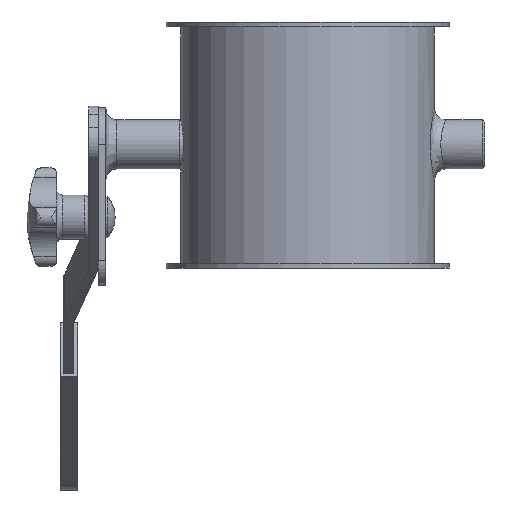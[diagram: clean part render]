
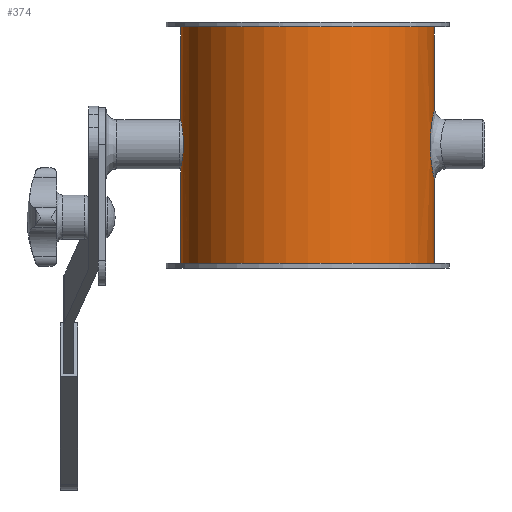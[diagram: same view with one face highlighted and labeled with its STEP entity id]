
A CAD part, front view. The second image highlights one B-rep face of the part: STEP entity #374.
In plain terms, the highlighted cylindrical face has radius 51.5 mm (diameter 103 mm), a full revolution.
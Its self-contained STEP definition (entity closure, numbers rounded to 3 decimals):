
#266=CARTESIAN_POINT('',(49.744,13.335,50.293));
#267=VERTEX_POINT('',#266);
#277=CARTESIAN_POINT('',(49.743,13.336,50.293));
#278=CARTESIAN_POINT('',(49.743,13.336,50.293));
#279=CARTESIAN_POINT('',(49.743,13.336,50.294));
#280=CARTESIAN_POINT('',(49.743,13.336,50.294));
#281=CARTESIAN_POINT('',(49.743,13.336,52.461));
#282=CARTESIAN_POINT('',(50.001,12.421,56.796));
#283=CARTESIAN_POINT('',(50.851,8.618,61.994));
#284=CARTESIAN_POINT('',(51.526,3.114,64.904));
#285=CARTESIAN_POINT('',(51.526,-3.077,64.919));
#286=CARTESIAN_POINT('',(50.858,-8.59,62.008));
#287=CARTESIAN_POINT('',(49.902,-12.841,56.264));
#288=CARTESIAN_POINT('',(49.614,-13.793,49.507));
#289=CARTESIAN_POINT('',(50.158,-11.792,42.487));
#290=CARTESIAN_POINT('',(50.965,-8.044,38.1));
#291=CARTESIAN_POINT('',(51.527,-2.405,35.676));
#292=CARTESIAN_POINT('',(51.526,3.082,35.672));
#293=CARTESIAN_POINT('',(50.853,8.603,38.583));
#294=CARTESIAN_POINT('',(50.004,12.412,43.757));
#295=CARTESIAN_POINT('',(49.743,13.336,48.127));
#296=CARTESIAN_POINT('',(49.743,13.336,50.293));
#297=B_SPLINE_CURVE_WITH_KNOTS('',3,(#277,#278,#279,#280,#281,#282,#283,#284,#285,#286,#287,#288,#289,#290,#291,#292,#293,#294,#295,#296),.UNSPECIFIED.,.T.,.U.,(4,3,1,1,1,1,1,1,1,1,1,1,1,1,1,4),(-6.044,-6.044,-5.612,-5.18,-4.748,-4.317,-3.885,-3.453,-2.878,-2.59,-2.015,-1.727,-1.295,-0.863,-0.432,0.),.UNSPECIFIED.);
#298=EDGE_CURVE('',#267,#267,#297,.T.);
#303=CARTESIAN_POINT('',(0.0,0.0,0.0));
#304=DIRECTION('',(0.0,0.0,1.0));
#305=DIRECTION('',(-1.0,0.0,0.0));
#306=AXIS2_PLACEMENT_3D('',#303,#304,#305);
#307=CYLINDRICAL_SURFACE('',#306,51.5);
#308=CARTESIAN_POINT('',(51.5,0.,98.0));
#309=VERTEX_POINT('',#308);
#310=CARTESIAN_POINT('',(0.0,0.0,98.0));
#311=DIRECTION('',(0.0,0.0,-1.0));
#312=DIRECTION('',(-1.0,0.0,0.0));
#313=AXIS2_PLACEMENT_3D('',#310,#311,#312);
#314=CIRCLE('',#313,51.5);
#315=EDGE_CURVE('',#309,#309,#314,.T.);
#316=ORIENTED_EDGE('',*,*,#315,.T.);
#317=EDGE_LOOP('',(#316));
#318=FACE_OUTER_BOUND('',#317,.T.);
#319=CARTESIAN_POINT('',(-51.5,0.,2.0));
#320=VERTEX_POINT('',#319);
#321=CARTESIAN_POINT('',(0.0,0.0,2.0));
#322=DIRECTION('',(0.0,0.0,1.0));
#323=DIRECTION('',(-1.0,0.0,0.0));
#324=AXIS2_PLACEMENT_3D('',#321,#322,#323);
#325=CIRCLE('',#324,51.5);
#326=EDGE_CURVE('',#320,#320,#325,.T.);
#327=ORIENTED_EDGE('',*,*,#326,.T.);
#328=EDGE_LOOP('',(#327));
#329=FACE_BOUND('',#328,.T.);
#330=CARTESIAN_POINT('',(-50.52,10.0,50.293));
#331=VERTEX_POINT('',#330);
#332=CARTESIAN_POINT('',(-50.52,10.0,50.293));
#333=CARTESIAN_POINT('',(-50.52,10.0,51.552));
#334=CARTESIAN_POINT('',(-50.572,9.748,52.893));
#335=CARTESIAN_POINT('',(-50.758,8.726,55.356));
#336=CARTESIAN_POINT('',(-50.889,7.957,56.478));
#337=CARTESIAN_POINT('',(-51.135,6.185,58.25));
#338=CARTESIAN_POINT('',(-51.265,5.063,59.019));
#339=CARTESIAN_POINT('',(-51.449,2.6,60.041));
#340=CARTESIAN_POINT('',(-51.5,1.259,60.293));
#341=CARTESIAN_POINT('',(-51.5,-1.259,60.293));
#342=CARTESIAN_POINT('',(-51.449,-2.6,60.041));
#343=CARTESIAN_POINT('',(-51.265,-5.063,59.019));
#344=CARTESIAN_POINT('',(-51.135,-6.185,58.25));
#345=CARTESIAN_POINT('',(-50.889,-7.957,56.478));
#346=CARTESIAN_POINT('',(-50.758,-8.726,55.356));
#347=CARTESIAN_POINT('',(-50.572,-9.748,52.893));
#348=CARTESIAN_POINT('',(-50.52,-10.0,51.552));
#349=CARTESIAN_POINT('',(-50.52,-10.0,49.034));
#350=CARTESIAN_POINT('',(-50.572,-9.748,47.693));
#351=CARTESIAN_POINT('',(-50.758,-8.726,45.23));
#352=CARTESIAN_POINT('',(-50.889,-7.957,44.108));
#353=CARTESIAN_POINT('',(-51.135,-6.185,42.336));
#354=CARTESIAN_POINT('',(-51.265,-5.063,41.567));
#355=CARTESIAN_POINT('',(-51.449,-2.6,40.545));
#356=CARTESIAN_POINT('',(-51.5,-1.259,40.293));
#357=CARTESIAN_POINT('',(-51.5,1.259,40.293));
#358=CARTESIAN_POINT('',(-51.449,2.6,40.545));
#359=CARTESIAN_POINT('',(-51.265,5.063,41.567));
#360=CARTESIAN_POINT('',(-51.135,6.185,42.336));
#361=CARTESIAN_POINT('',(-50.889,7.957,44.108));
#362=CARTESIAN_POINT('',(-50.758,8.726,45.23));
#363=CARTESIAN_POINT('',(-50.572,9.748,47.693));
#364=CARTESIAN_POINT('',(-50.52,10.0,49.034));
#365=CARTESIAN_POINT('',(-50.52,10.0,50.293));
#366=B_SPLINE_CURVE_WITH_KNOTS('',3,(#332,#333,#334,#335,#336,#337,#338,#339,#340,#341,#342,#343,#344,#345,#346,#347,#348,#349,#350,#351,#352,#353,#354,#355,#356,#357,#358,#359,#360,#361,#362,#363,#364,#365),.UNSPECIFIED.,.T.,.U.,(4,2,2,2,2,2,2,2,2,2,2,2,2,2,2,2,4),(0.0,0.378,0.755,1.133,1.511,1.889,2.266,2.644,3.022,3.399,3.777,4.155,4.533,4.91,5.288,5.666,6.044),.UNSPECIFIED.);
#367=EDGE_CURVE('',#331,#331,#366,.T.);
#368=ORIENTED_EDGE('',*,*,#367,.T.);
#369=EDGE_LOOP('',(#368));
#370=FACE_BOUND('',#369,.T.);
#371=ORIENTED_EDGE('',*,*,#298,.F.);
#372=EDGE_LOOP('',(#371));
#373=FACE_BOUND('',#372,.T.);
#374=ADVANCED_FACE('',(#318,#329,#370,#373),#307,.T.);
